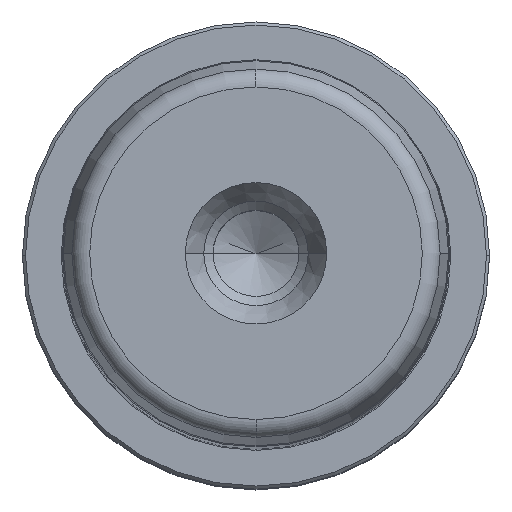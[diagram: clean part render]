
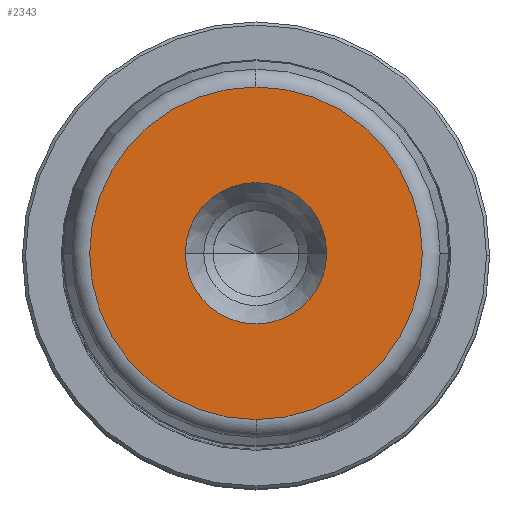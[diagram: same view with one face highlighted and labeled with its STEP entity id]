
A CAD part, top view. The second image highlights one B-rep face of the part: STEP entity #2343.
In plain terms, the highlighted planar face has unit normal (0, 0, 1).
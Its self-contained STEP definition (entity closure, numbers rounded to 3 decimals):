
#431=CARTESIAN_POINT('',(11.5,0.,220.0));
#432=VERTEX_POINT('',#431);
#439=CARTESIAN_POINT('',(-11.5,0.,220.0));
#440=VERTEX_POINT('',#439);
#441=CARTESIAN_POINT('',(0.0,0.,220.));
#442=DIRECTION('',(0.0,0.0,1.0));
#443=DIRECTION('',(1.0,0.0,0.0));
#444=AXIS2_PLACEMENT_3D('',#441,#442,#443);
#445=CIRCLE('',#444,11.5);
#446=EDGE_CURVE('',#432,#440,#445,.T.);
#463=CARTESIAN_POINT('',(0.0,-27.054,220.0));
#464=VERTEX_POINT('',#463);
#474=CARTESIAN_POINT('',(0.,27.054,220.));
#475=VERTEX_POINT('',#474);
#476=CARTESIAN_POINT('',(0.0,0.,220.));
#477=DIRECTION('',(0.0,0.0,1.0));
#478=DIRECTION('',(1.0,0.0,0.0));
#479=AXIS2_PLACEMENT_3D('',#476,#477,#478);
#480=CIRCLE('',#479,27.054);
#481=EDGE_CURVE('',#475,#464,#480,.T.);
#2304=CARTESIAN_POINT('',(27.054,0.,220.0));
#2305=VERTEX_POINT('',#2304);
#2306=CARTESIAN_POINT('',(0.0,0.,220.));
#2307=DIRECTION('',(0.0,0.0,1.0));
#2308=DIRECTION('',(1.0,0.0,0.0));
#2309=AXIS2_PLACEMENT_3D('',#2306,#2307,#2308);
#2310=CIRCLE('',#2309,27.054);
#2311=EDGE_CURVE('',#2305,#475,#2310,.T.);
#2313=CARTESIAN_POINT('',(0.0,0.,220.));
#2314=DIRECTION('',(0.0,0.0,1.0));
#2315=DIRECTION('',(1.0,0.0,0.0));
#2316=AXIS2_PLACEMENT_3D('',#2313,#2314,#2315);
#2317=CIRCLE('',#2316,27.054);
#2318=EDGE_CURVE('',#464,#2305,#2317,.T.);
#2323=CARTESIAN_POINT('',(19.277,0.,220.0));
#2324=DIRECTION('',(0.0,0.0,1.0));
#2325=DIRECTION('',(0.0,-1.0,0.0));
#2326=AXIS2_PLACEMENT_3D('',#2323,#2324,#2325);
#2327=PLANE('',#2326);
#2328=ORIENTED_EDGE('',*,*,#2311,.T.);
#2329=ORIENTED_EDGE('',*,*,#481,.T.);
#2330=ORIENTED_EDGE('',*,*,#2318,.T.);
#2331=EDGE_LOOP('',(#2328,#2329,#2330));
#2332=FACE_OUTER_BOUND('',#2331,.T.);
#2333=ORIENTED_EDGE('',*,*,#446,.F.);
#2334=CARTESIAN_POINT('',(0.0,0.,220.));
#2335=DIRECTION('',(0.0,0.0,1.0));
#2336=DIRECTION('',(1.0,0.0,0.0));
#2337=AXIS2_PLACEMENT_3D('',#2334,#2335,#2336);
#2338=CIRCLE('',#2337,11.5);
#2339=EDGE_CURVE('',#440,#432,#2338,.T.);
#2340=ORIENTED_EDGE('',*,*,#2339,.F.);
#2341=EDGE_LOOP('',(#2333,#2340));
#2342=FACE_BOUND('',#2341,.T.);
#2343=ADVANCED_FACE('',(#2332,#2342),#2327,.T.);
